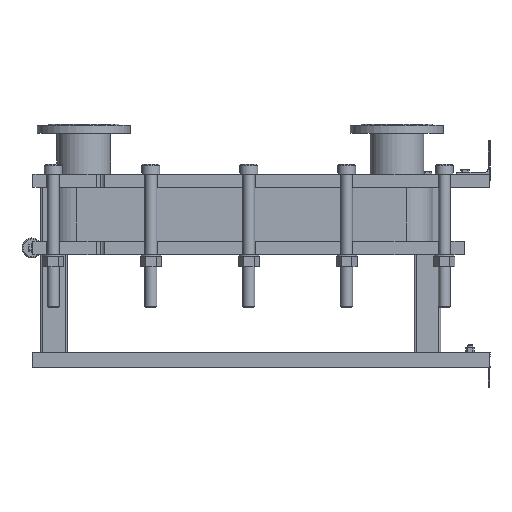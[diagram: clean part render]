
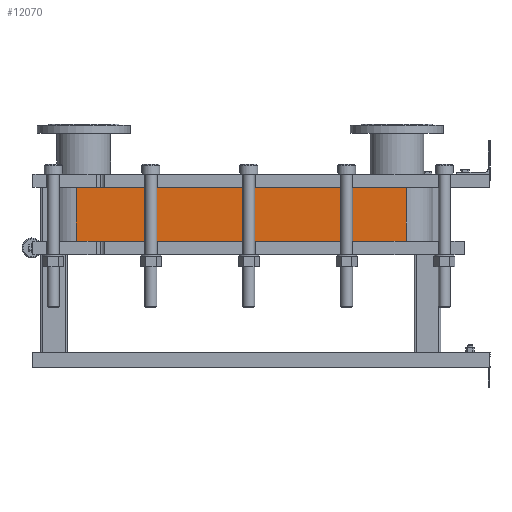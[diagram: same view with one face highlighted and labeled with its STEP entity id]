
A CAD part, left-side view. The second image highlights one B-rep face of the part: STEP entity #12070.
In plain terms, the highlighted planar face has unit normal (-1, 0, 0).
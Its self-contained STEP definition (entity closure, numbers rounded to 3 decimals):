
#1064=LINE('',#21140,#2164);
#1065=LINE('',#21144,#2165);
#1066=LINE('',#21146,#2166);
#1067=LINE('',#21147,#2167);
#2164=VECTOR('',#15790,10.);
#2165=VECTOR('',#15795,10.);
#2166=VECTOR('',#15796,10.);
#2167=VECTOR('',#15797,10.);
#3304=FACE_OUTER_BOUND('',#4091,.T.);
#4091=EDGE_LOOP('',(#9793,#9794,#9795,#9796));
#5677=VERTEX_POINT('',#21137);
#5678=VERTEX_POINT('',#21139);
#5679=VERTEX_POINT('',#21143);
#5680=VERTEX_POINT('',#21145);
#7118=EDGE_CURVE('',#5678,#5677,#1064,.T.);
#7120=EDGE_CURVE('',#5677,#5679,#1065,.T.);
#7121=EDGE_CURVE('',#5680,#5679,#1066,.T.);
#7122=EDGE_CURVE('',#5680,#5678,#1067,.T.);
#9793=ORIENTED_EDGE('',*,*,#7120,.T.);
#9794=ORIENTED_EDGE('',*,*,#7121,.F.);
#9795=ORIENTED_EDGE('',*,*,#7122,.T.);
#9796=ORIENTED_EDGE('',*,*,#7118,.T.);
#11441=PLANE('',#13191);
#12070=ADVANCED_FACE('',(#3304),#11441,.T.);
#13191=AXIS2_PLACEMENT_3D('',#21142,#15793,#15794);
#15790=DIRECTION('',(0.,0.,-1.));
#15793=DIRECTION('center_axis',(-1.,0.,0.));
#15794=DIRECTION('ref_axis',(0.,1.,0.));
#15795=DIRECTION('',(0.,-1.,0.));
#15796=DIRECTION('',(0.,0.,-1.));
#15797=DIRECTION('',(0.,1.,0.));
#21137=CARTESIAN_POINT('',(-248.152,1243.818,-162.15));
#21139=CARTESIAN_POINT('',(-248.152,1243.818,0.));
#21140=CARTESIAN_POINT('',(-248.152,1243.818,0.));
#21142=CARTESIAN_POINT('Origin',(-248.152,251.818,0.));
#21143=CARTESIAN_POINT('',(-248.152,251.818,-162.15));
#21144=CARTESIAN_POINT('',(-248.152,499.818,-162.15));
#21145=CARTESIAN_POINT('',(-248.152,251.818,0.));
#21146=CARTESIAN_POINT('',(-248.152,251.818,0.));
#21147=CARTESIAN_POINT('',(-248.152,251.818,0.));
